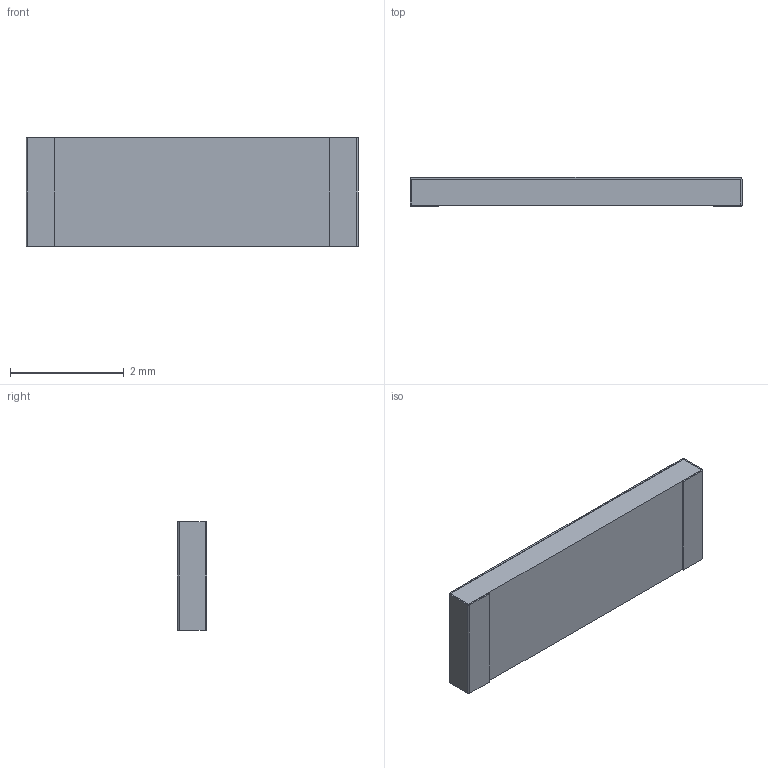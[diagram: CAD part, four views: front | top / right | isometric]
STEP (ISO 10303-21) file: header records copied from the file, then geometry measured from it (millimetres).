
FILE_DESCRIPTION(/* description */ (''),/* implementation_level */ '2;1');
FILE_NAME(/* name */ 'C:\Users\Public\Documents\Autodesk\Inventor LT 2014\Workspace\Vishay\STEP Files\PTN2208.stp',/* time_stamp */ '2020-01-08T14:51:58-06:00',/* author */ ('Neil'),/* organization */ (''),/* preprocessor_version */ 'ST-DEVELOPER v15.2',/* originating_system */ 'Autodesk Inventor LT ',/* authorisation */ '');
FILE_SCHEMA (('AUTOMOTIVE_DESIGN { 1 0 10303 214 3 1 1 }'));
Length unit declared in the file: inch
Products named in the file (1): PTN2208
Bounding box: 5.84 x 0.52 x 1.91 mm (x, y, z)
Volume: 5.5 mm3; surface area: 73.1 mm2
Topology: 5 solids, 5 shells, 98 faces, 264 edges, 176 vertices
Faces by surface type: plane 82, cylinder 16
Entity records: 3090 total; most frequent: CARTESIAN_POINT 539, ORIENTED_EDGE 528, DIRECTION 494, EDGE_CURVE 264, LINE 232, VECTOR 232, VERTEX_POINT 176, AXIS2_PLACEMENT_3D 131
